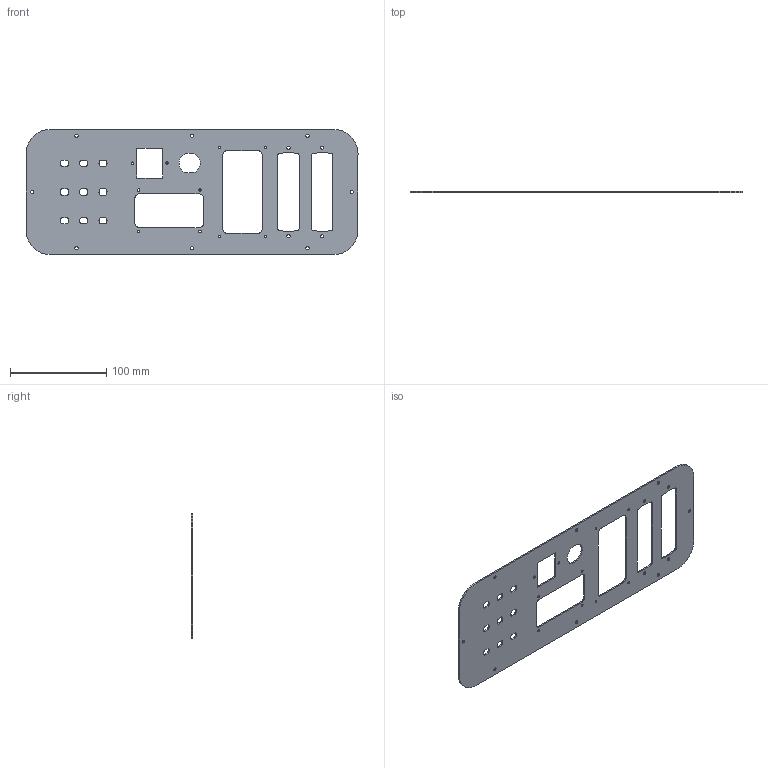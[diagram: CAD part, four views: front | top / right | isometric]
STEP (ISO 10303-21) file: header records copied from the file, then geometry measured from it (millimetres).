
FILE_DESCRIPTION(/* description */ (''),/* implementation_level */ '2;1');
FILE_NAME(/* name */ 'TWC-EL0002-P99_Connectors Plate.stp',/* time_stamp */ '2026-03-31T15:50:18+02:00',/* author */ (''),/* organization */ (''),/* preprocessor_version */ 'ST-DEVELOPER v18.1',/* originating_system */ 'SIEMENS PLM Software NX 1988',/* authorisation */ '');
FILE_SCHEMA (('AUTOMOTIVE_DESIGN { 1 0 10303 214 3 1 1 1 }'));
Length unit declared in the file: millimetre
Products named in the file (1): anto91C06C61rmz1
Bounding box: 345 x 1.5 x 130 mm (x, y, z)
Volume: 49419.7 mm3; surface area: 69463.3 mm2
Topology: 1 solids, 1 shells, 108 faces, 336 edges, 230 vertices
Faces by surface type: cylinder 66, plane 42
Full cylindrical faces by diameter (mm): 2.5 x10, 3.4 x12
Entity records: 3724 total; most frequent: DIRECTION 646, CARTESIAN_POINT 617, ORIENTED_EDGE 592, EDGE_CURVE 296, AXIS2_PLACEMENT_3D 241, VERTEX_POINT 212, EDGE_LOOP 204, LINE 164
